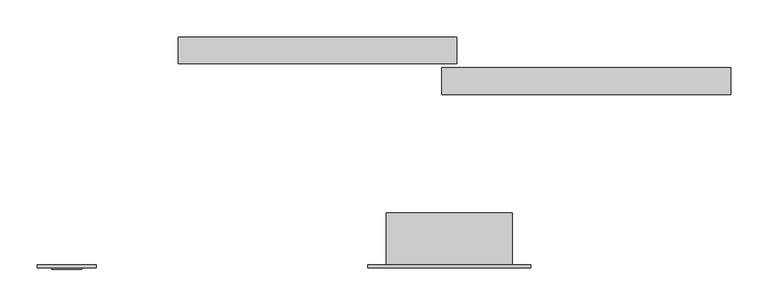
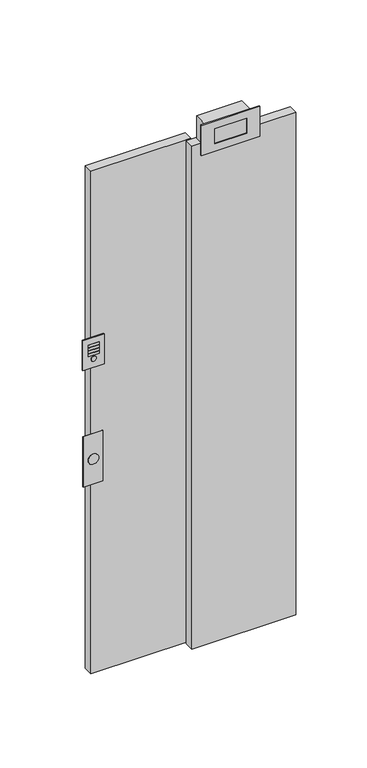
"""IFC4 building model written with IfcOpenShell, lengths in millimetres: proxy geometry, SHLZ_Дверь_0621Е_0411 : SHLZ_Дверь_0621Е_0411."""

from ifc_helpers import new_model, si_unit, point, frame, frame_2d, origin, origin_with_axes, place, context, project, spatial, polyline, circle_curve, trimmed, segment, composite_curve, outline, extrude, faceted_brep, source, transform, mapped, element, save


def generic_models_5d65fb78(model_context):
    return source(origin(), model_context, "Body", "SolidModel", [
        extrude(outline(polyline([(-556.3, -200.0), (-476.3, -200.0), (-476.3, -204.0), (-556.3, -204.0), (-556.3, -200.0)])), frame((0.0, 0.0, 1440.0), z_axis=(0.0, 0.0, 1.0), x_axis=(1.0, 0.0, 0.0)), (0.0, 0.0, 1.0), 120.0),
        extrude(outline(composite_curve([segment(trimmed(circle_curve(frame_2d((1476.0113201, -516.3)), 10.0), [point((1476.0113201, -526.3))], [point((1476.0113201, -506.3))], False, "CARTESIAN"), True, "CONTINUOUS"), segment(trimmed(circle_curve(frame_2d((1476.0113201, -516.3)), 10.0), [point((1476.0113201, -506.3))], [point((1476.0113201, -526.3))], False, "CARTESIAN"), True, "CONTINUOUS")], self_intersect=False)), frame((0.0, -206.0, 0.0), z_axis=(0.0, 1.0, 0.0), x_axis=(0.0, 0.0, 1.0)), (0.0, 0.0, 1.0), 2.0),
        extrude(outline(polyline([(-536.3, -206.0), (-536.3, -204.0), (-496.3, -204.0), (-496.3, -206.0), (-536.3, -206.0)])), frame((0.0, 0.0, 1502.3637345), z_axis=(0.0, 0.0, 1.0), x_axis=(1.0, 0.0, 0.0)), (0.0, 0.0, 1.0), 10.0),
        extrude(outline(polyline([(-536.3, -206.0), (-536.3, -204.0), (-496.3, -204.0), (-496.3, -206.0), (-536.3, -206.0)])), frame((0.0, 0.0, 1490.6113201), z_axis=(0.0, 0.0, 1.0), x_axis=(1.0, 0.0, 0.0)), (0.0, 0.0, 1.0), 10.0),
        extrude(outline(polyline([(-536.3, -206.0), (-536.3, -204.0), (-496.3, -204.0), (-496.3, -206.0), (-536.3, -206.0)])), frame((0.0, 0.0, 1514.1161488), z_axis=(0.0, 0.0, 1.0), x_axis=(1.0, 0.0, 0.0)), (0.0, 0.0, 1.0), 10.0),
        extrude(outline(polyline([(-536.3, -206.0), (-536.3, -204.0), (-496.3, -204.0), (-496.3, -206.0), (-536.3, -206.0)])), frame((0.0, 0.0, 1525.8685632), z_axis=(0.0, 0.0, 1.0), x_axis=(1.0, 0.0, 0.0)), (0.0, 0.0, 1.0), 10.0),
        extrude(outline(polyline([(-553.5601691, -202.0), (-553.5601691, -200.0), (-479.0398309, -200.0), (-479.0398309, -202.0), (-553.5601691, -202.0)])), frame((0.0, 0.0, 975.0), z_axis=(0.0, 0.0, 1.0), x_axis=(1.0, 0.0, 0.0)), (0.0, 0.0, 1.0), 200.0),
        extrude(outline(composite_curve([segment(trimmed(circle_curve(frame_2d((1075.0, -516.3)), 20.0), [point((1075.0, -496.3))], [point((1075.0, -536.3))], False, "CARTESIAN"), True, "CONTINUOUS"), segment(trimmed(circle_curve(frame_2d((1075.0, -516.3)), 20.0), [point((1075.0, -536.3))], [point((1075.0, -496.3))], False, "CARTESIAN"), True, "CONTINUOUS")], self_intersect=False)), frame((0.0, -204.0226285, 0.0), z_axis=(0.0, 1.0, 0.0), x_axis=(0.0, 0.0, 1.0)), (0.0, 0.0, 1.0), 2.0226285),
        extrude(outline(polyline([(10.0, 108.0), (10.0, 72.0), (-366.0, 72.0), (-366.0, 108.0), (10.0, 108.0)])), origin_with_axes(), (0.0, 0.0, 1.0), 2000.0),
        extrude(outline(polyline([(380.0, 66.3), (380.0, 30.3), (-10.0, 30.3), (-10.0, 66.3), (380.0, 66.3)])), origin_with_axes(), (0.0, 0.0, 1.0), 2000.0),
        faceted_brep([(110.0, -204.0, 2260.0), (-110.0, -204.0, 2260.0), (-110.0, -204.0, 2140.0), (110.0, -204.0, 2140.0), (60.0, -204.0, 2230.0), (60.0, -204.0, 2170.0), (-60.0, -204.0, 2170.0), (-60.0, -204.0, 2230.0), (110.0, -200.0, 2260.0), (110.0, -200.0, 2140.0), (-110.0, -200.0, 2140.0), (-110.0, -200.0, 2260.0), (60.0, -202.0, 2230.0), (-60.0, -202.0, 2230.0), (-60.0, -202.0, 2170.0), (60.0, -202.0, 2170.0)], [[[0, 1, 2, 3], [4, 5, 6, 7]], [[8, 9, 10, 11]], [[1, 0, 8, 11]], [[2, 1, 11, 10]], [[3, 2, 10, 9]], [[0, 3, 9, 8]], [[12, 13, 14, 15]], [[12, 15, 5, 4]], [[15, 14, 6, 5]], [[14, 13, 7, 6]], [[13, 12, 4, 7]]]),
        extrude(outline(polyline([(85.0, -200.0), (-85.0, -200.0), (-85.0, -130.0), (85.0, -130.0), (85.0, -200.0)])), frame((0.0, 0.0, 2155.0), z_axis=(0.0, 0.0, 1.0), x_axis=(1.0, 0.0, 0.0)), (0.0, 0.0, 1.0), 90.0),
    ])


if __name__ == "__main__":
    model = new_model("IFC4")
    model_context = context("Model", 3, world=origin())
    ifc_project = project(units=[si_unit("LENGTHUNIT", "METRE", prefix="MILLI")], contexts=[model_context])
    site = spatial("IfcSite", under=ifc_project)
    building = spatial("IfcBuilding", under=site)
    placement = place(None, origin())
    generic_models_shape = generic_models_5d65fb78(model_context)
    element("IfcBuildingElementProxy", 1, Name="SHLZ_Дверь_0621Е_0411 : SHLZ_Дверь_0621Е_0411", ObjectType="SHLZ_Дверь_0621Е_0411 : SHLZ_Дверь_0621Е_0411", at=placement, inside=building, context=model_context, shape_type="MappedRepresentation", body=[
        mapped(generic_models_shape, transform((0.0, 0.0, 0.0), x_axis=(1.0, 0.0, 0.0), y_axis=(0.0, 1.0, 0.0), z_axis=(0.0, 0.0, 1.0))),
    ])
    save(model, "model.ifc")
